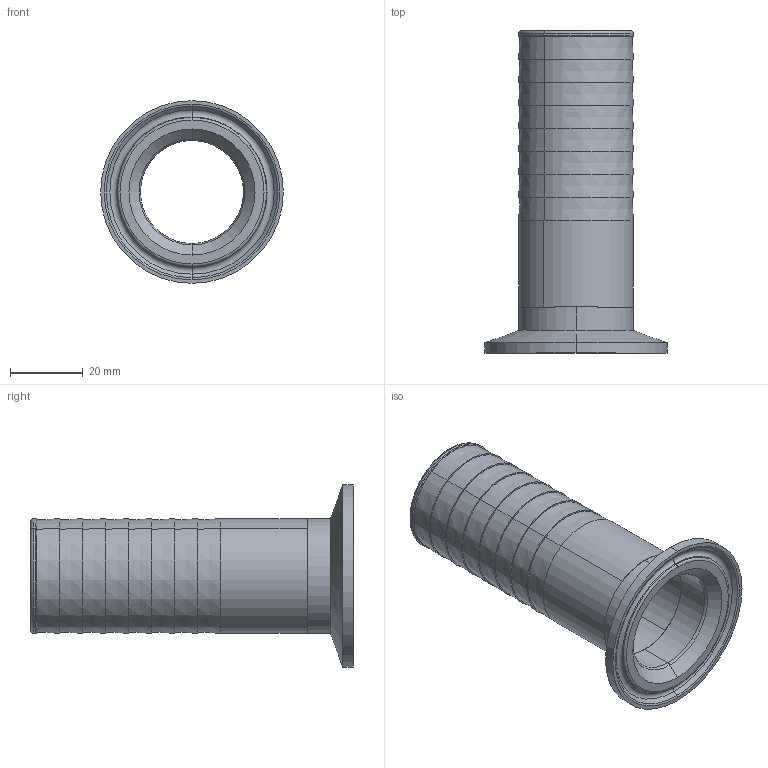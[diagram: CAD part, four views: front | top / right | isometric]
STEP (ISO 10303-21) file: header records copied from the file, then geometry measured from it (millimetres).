
FILE_DESCRIPTION (( 'STEP AP203' ), '1' );
FILE_NAME ('EG14RT1.5X1.25.STEP', '2018-05-10T16:48:40', ( 'vneprd' ), ( 'Microsoft' ), 'SwSTEP 2.0', 'SolidWorks 2014', '' );
FILE_SCHEMA (( 'CONFIG_CONTROL_DESIGN' ));
Length unit declared in the file: inch
Products named in the file (3): EG2CS31D1.5X1.25; EG14RT1.5X1.25; V14RH1.25
Assembly tree (2 placements, depth 2):
  EG14RT1.5X1.25
    EG2CS31D1.5X1.25
    V14RH1.25
Bounding box: 50.39 x 88.9 x 50.39 mm (x, y, z)
Volume: 17215.9 mm3; surface area: 20027.1 mm2
Topology: 2 solids, 2 shells, 62 faces, 124 edges, 76 vertices
Faces by surface type: cone 24, plane 14, torus 12, cylinder 12
Entity records: 1955 total; most frequent: DIRECTION 346, CARTESIAN_POINT 267, ORIENTED_EDGE 248, AXIS2_PLACEMENT_3D 155, EDGE_CURVE 124, CIRCLE 88, EDGE_LOOP 76, VERTEX_POINT 76
